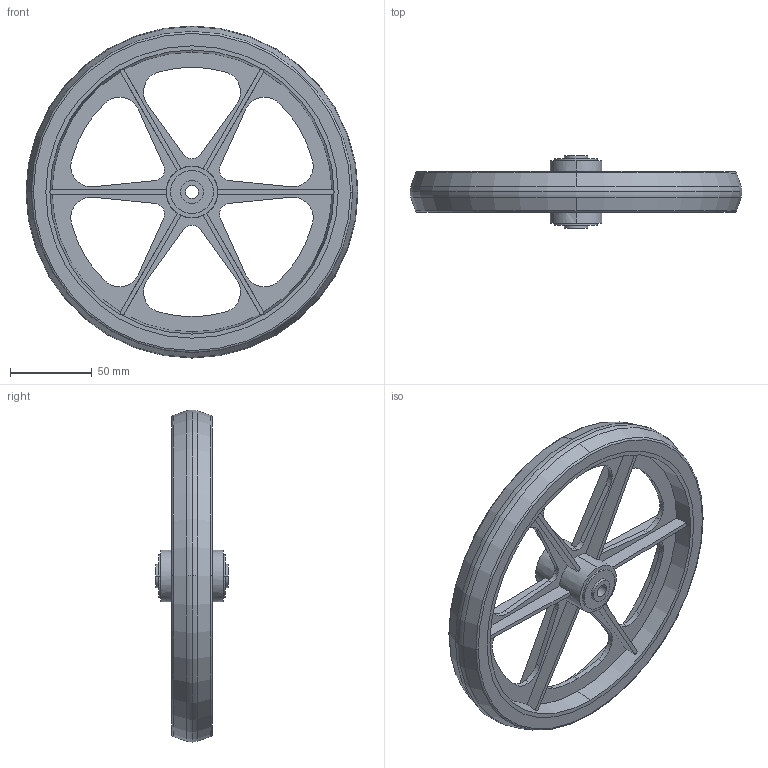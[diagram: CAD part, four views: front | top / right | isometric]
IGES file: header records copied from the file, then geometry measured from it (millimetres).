
Global section: file name: C:\Documents and Settings\Administrator\Desktop\Transfer Temp\wheelchairwheel8.igs; native system: AutoDesk Inventor R2.0 ; preprocessor: AutoDesk Inventor Iges Exporter R2.0; author: No Author specified; organization: No Organization specified; date: 20020113.184813; units: inch
Bounding box: 203.2 x 44.58 x 203.2 mm (x, y, z)
Surface area: 114577.6 mm2 (no closed solid volume)
Topology: 0 solids, 0 shells, 206 faces, 1092 edges, 1092 vertices
Faces by surface type: bspline 116, revolution 90
